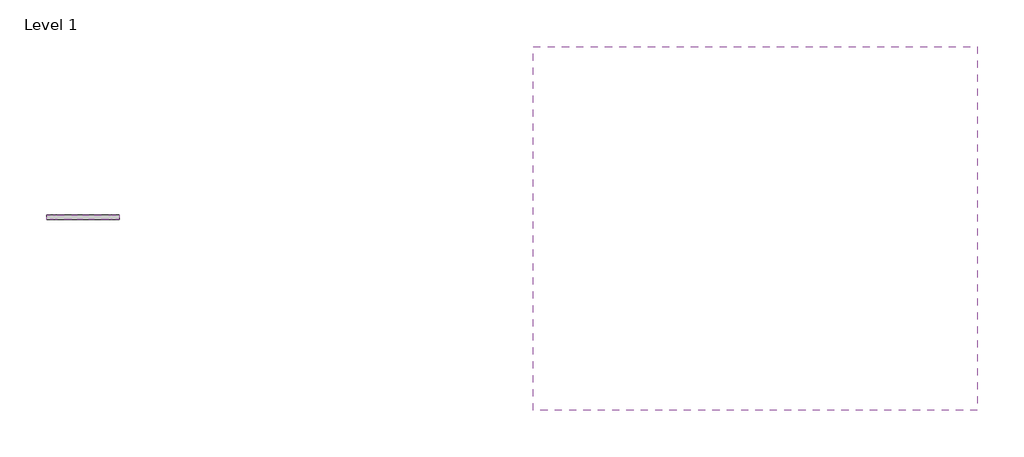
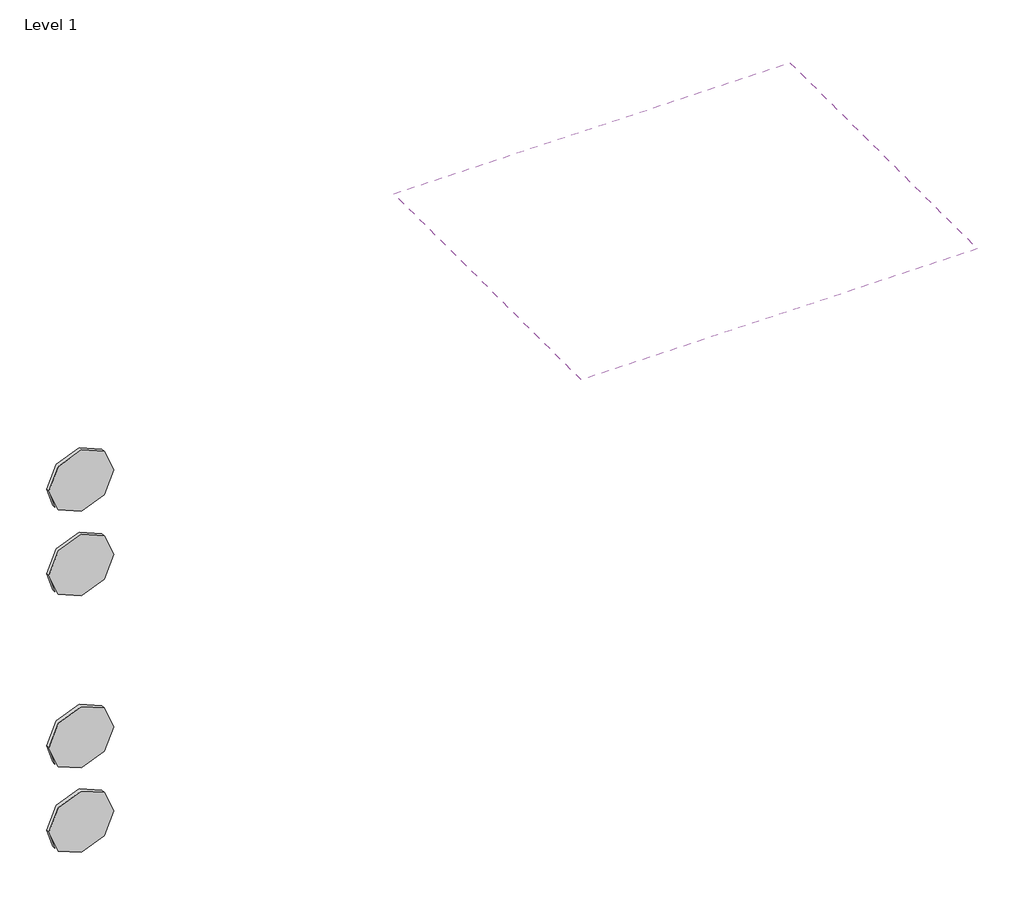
# One storey, incomplete: 4 proxies, 1 covering.
"""IFC4 building model written with IfcOpenShell, lengths in millimetres."""

from ifc_helpers import new_model, si_unit, frame, origin, place, context, project, spatial, polyline, outline, extrude, transform, mapped, element, save
from components import materialmodel_materialmodel_41144b76

model = new_model("IFC4")

# Units and contexts
model_context = context("Model", 3, world=origin())
ifc_project = project(units=[si_unit("LENGTHUNIT", "METRE", prefix="MILLI")], contexts=[model_context])

# Site, building, storey
site = spatial("IfcSite", under=ifc_project)
building = spatial("IfcBuilding", under=site)
storey = spatial("IfcBuildingStorey", under=building, Name="Level 1", Elevation=0.0)

# Proxies
placement = place(None, origin())
materialmodel_materialmodel_shape = materialmodel_materialmodel_41144b76(model_context)
element("IfcBuildingElementProxy", 1, Name="MaterialModel : MaterialModel", ObjectType="MaterialModel : MaterialModel", at=placement, inside=storey, context=model_context, shape_type="MappedRepresentation", body=[
    mapped(materialmodel_materialmodel_shape, transform((-15717.8072231, 6097.5863071, 876.7046249), x_axis=(1.0, 0.0, 0.0), y_axis=(0.0, 1.0, 0.0), z_axis=(0.0, 0.0, 1.0))),
])
element("IfcBuildingElementProxy", 2, Name="MaterialModel : MaterialModel", ObjectType="MaterialModel : MaterialModel", at=placement, inside=storey, context=model_context, shape_type="MappedRepresentation", body=[
    mapped(materialmodel_materialmodel_shape, transform((-15717.8072231, 6097.5863071, 601.7046249), x_axis=(1.0, 0.0, 0.0), y_axis=(0.0, 1.0, 0.0), z_axis=(0.0, 0.0, 1.0))),
])
element("IfcBuildingElementProxy", 3, Name="MaterialModel : MaterialModel", ObjectType="MaterialModel : MaterialModel", at=placement, inside=storey, context=model_context, shape_type="MappedRepresentation", body=[
    mapped(materialmodel_materialmodel_shape, transform((-15717.8072231, 6097.5863071, 1712.218674), x_axis=(1.0, 0.0, 0.0), y_axis=(0.0, 1.0, 0.0), z_axis=(0.0, 0.0, 1.0))),
])
element("IfcBuildingElementProxy", 4, Name="MaterialModel : MaterialModel", ObjectType="MaterialModel : MaterialModel", at=placement, inside=storey, context=model_context, shape_type="MappedRepresentation", body=[
    mapped(materialmodel_materialmodel_shape, transform((-15717.8072231, 6097.5863071, 1437.218674), x_axis=(1.0, 0.0, 0.0), y_axis=(0.0, 1.0, 0.0), z_axis=(0.0, 0.0, 1.0))),
])

# Covering
element("IfcCovering", 5, ObjectType="600 x 1200mm Grid", at=placement, inside=storey, context=model_context, shape_type="SweptSolid", body=[
    extrude(outline(polyline([(-13260.883584, 6561.1087432), (-13260.883584, 5561.1087432), (-14480.883584, 5561.1087432), (-14480.883584, 6561.1087432), (-13260.883584, 6561.1087432)])), frame((0.0, 0.0, 2000.0), z_axis=(0.0, 0.0, 1.0), x_axis=(1.0, 0.0, 0.0)), (0.0, 0.0, 1.0), 52.0),
])

save(model, "model.ifc")
